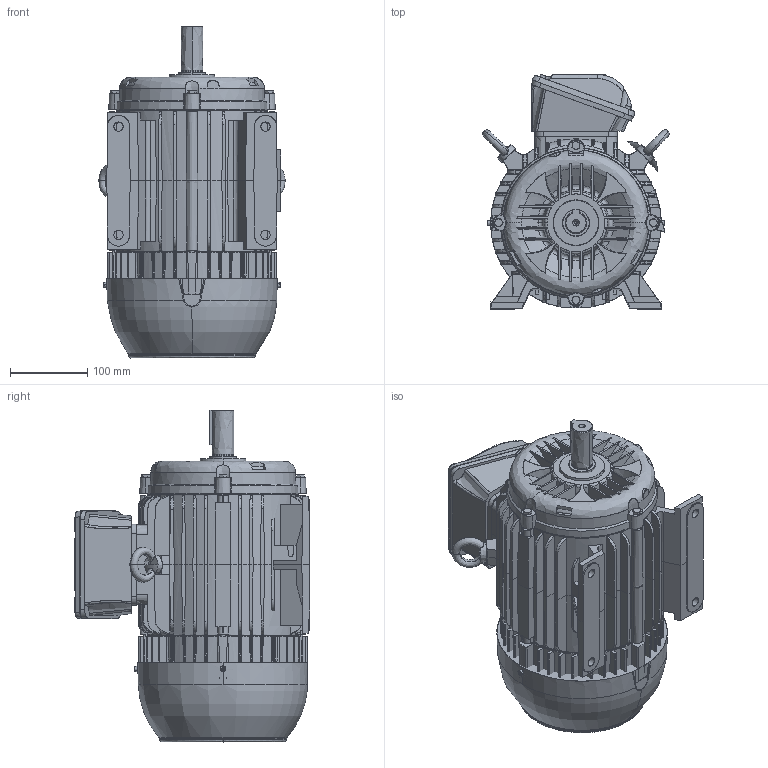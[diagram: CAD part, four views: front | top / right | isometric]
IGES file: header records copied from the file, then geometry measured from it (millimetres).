
Start section: SolidWorks IGES file using analytic representation for surfaces
Global section: file name: Q:\GROUPS\BR_SC_JGS_WMO_ENG_PRODUTO\ADMINISTRACAO_PRODUTO\Implantação de linha\Ian\Diversos\Scheila Sabrina Tomazeli\1\W22_GENERAL_PURPOSE\12_FRAME_L112M\STANDARD\IGS\L112M_TOP.IGS; native system: SolidWorks 2018; preprocessor: SolidWorks 2018; author: ianr; date: 200211.105712; units: millimetre
Bounding box: 240.65 x 304.15 x 429.1 mm (x, y, z)
Surface area: 876214.9 mm2 (no closed solid volume)
Topology: 0 solids, 0 shells, 2904 faces, 28031 edges, 28001 vertices
Faces by surface type: bspline 2267, revolution 637
